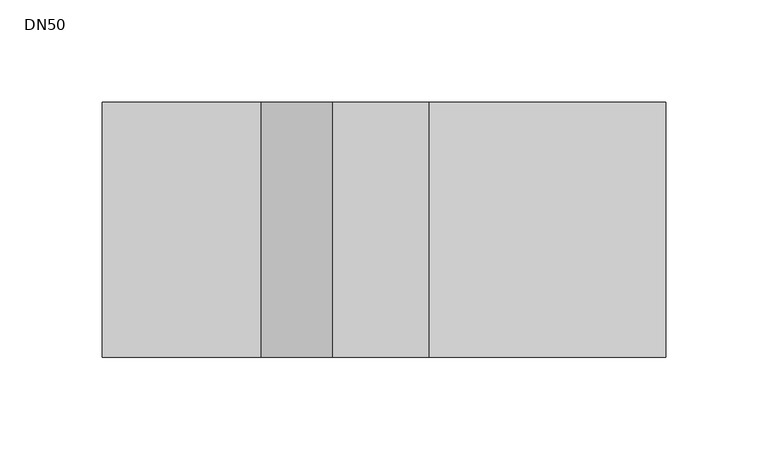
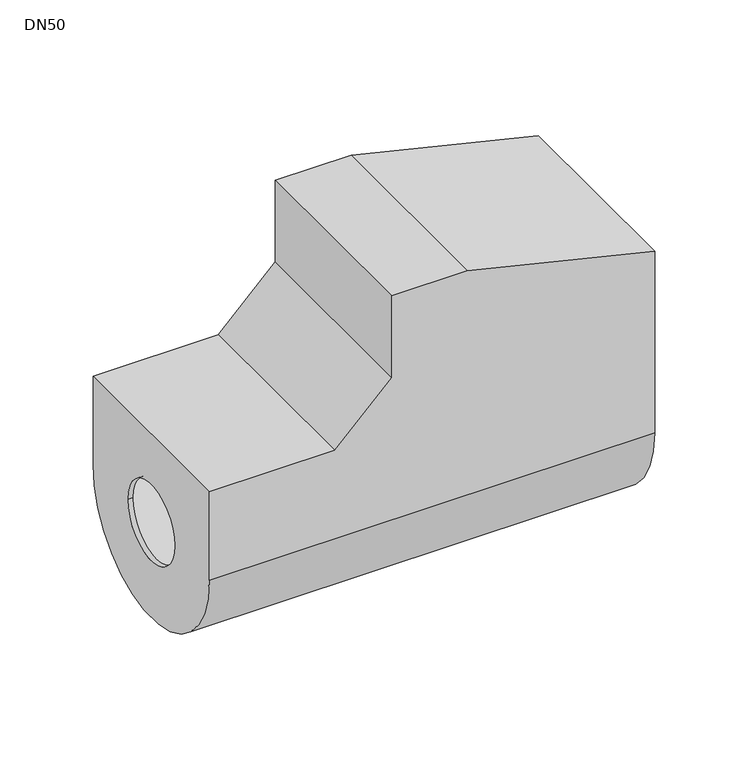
"""IFC4 building model written with IfcOpenShell, lengths in millimetres: valve geometry, 400_5-_KOMF_Isolatieschaal_DN20-50 : DN50."""

from ifc_helpers import new_model, si_unit, frame, origin, place, context, project, spatial, polyline, circle_curve, source, transform, mapped, element, save
from ifc_brep_helpers import plane_surface, cylinder_surface, revolved_surface, advanced_brep


def dn50_a4595473(model_context):
    return source(origin(), model_context, "Body", "AdvancedBrep", [
        advanced_brep(
        [(0.0, 62.5, 147.0), (47.0, 62.5, 147.0), (163.0, 62.5, 118.9711306), (163.0, 62.5, 0.0), (-113.0, 62.5, 0.0), (-113.0, 62.5, 58.0), (-35.3553391, 62.5, 58.0), (0.0, 62.5, 93.3553391), (163.0, -62.5, 118.9711306), (47.0, -62.5, 147.0), (0.0, -62.5, 147.0), (0.0, -62.5, 93.3553391), (-35.3553391, -62.5, 58.0), (-113.0, -62.5, 58.0), (-113.0, -62.5, 0.0), (163.0, -62.5, 0.0), (-113.0, 7.8898669, -62.0), (-113.0, -7.8898669, -62.0), (-113.0, -24.9999998, -4e-07), (-113.0, 25.0000002, -4e-07), (163.0, -7.8898669, -62.0), (163.0, 7.8898669, -62.0), (163.0, 25.0000002, -4e-07), (163.0, -24.9999998, -4e-07), (-110.0, -24.9999998, -4e-07), (-110.0, 25.0000002, -4e-07), (160.0, 25.0000002, -4e-07), (160.0, -24.9999998, -4e-07), (160.0, 59.5, 0.0), (160.0, -59.5, 0.0), (160.0, -59.5, 116.6843036), (160.0, 59.5, 116.6843036), (-110.0, -59.5, 55.0), (-110.0, -59.5, 0.0), (-110.0, 59.5, 0.0), (-110.0, 59.5, 55.0), (-34.1126984, -59.5, 55.0), (3.0, -59.5, 92.1126984), (3.0, -59.5, 144.0), (46.5953113, -59.5, 144.0), (46.5953113, 59.5, 144.0), (3.0, 59.5, 144.0), (3.0, 59.5, 92.1126984), (-34.1126984, 59.5, 55.0)],
        [
            (0, 1),
            (1, 2),
            (2, 3),
            (3, 4),
            (4, 5),
            (5, 6),
            (6, 7),
            (7, 0),
            (8, 9),
            (9, 10),
            (10, 11),
            (11, 12),
            (12, 13),
            (13, 14),
            (14, 15),
            (15, 8),
            (13, 5),
            (4, 16, circle_curve(frame((-113.0, 0.0, 0.0), z_axis=(-1.0, 0.0, 0.0), x_axis=(0.0, 1.0, 0.0)), 62.5)),
            (16, 17),
            (17, 14, circle_curve(frame((-113.0, 0.0, 0.0), z_axis=(-1.0, 0.0, 0.0), x_axis=(0.0, 1.0, 0.0)), 62.5)),
            (18, 19, circle_curve(frame((-113.0, 2e-07, -4e-07), z_axis=(1.0, 0.0, 0.0), x_axis=(0.0, 1.0, 0.0)), 25.0)),
            (19, 18, circle_curve(frame((-113.0, 2e-07, -4e-07), z_axis=(1.0, 0.0, 0.0), x_axis=(0.0, 1.0, 0.0)), 25.0)),
            (12, 6),
            (10, 0),
            (7, 11),
            (9, 1),
            (8, 2),
            (15, 20, circle_curve(frame((163.0, 0.0, 0.0), z_axis=(1.0, 0.0, 0.0), x_axis=(0.0, 1.0, 0.0)), 62.5)),
            (20, 21),
            (21, 3, circle_curve(frame((163.0, 0.0, 0.0), z_axis=(1.0, 0.0, 0.0), x_axis=(0.0, 1.0, 0.0)), 62.5)),
            (22, 23, circle_curve(frame((163.0, 2e-07, -4e-07), z_axis=(-1.0, 0.0, 0.0), x_axis=(0.0, 1.0, 0.0)), 25.0)),
            (23, 22, circle_curve(frame((163.0, 2e-07, -4e-07), z_axis=(-1.0, 0.0, 0.0), x_axis=(0.0, 1.0, 0.0)), 25.0)),
            (16, 21),
            (20, 17),
            (18, 24),
            (24, 25, circle_curve(frame((-110.0, 2e-07, -4e-07), z_axis=(1.0, 0.0, 0.0), x_axis=(0.0, 1.0, 0.0)), 25.0)),
            (25, 19),
            (22, 26),
            (26, 27, circle_curve(frame((160.0, 2e-07, -4e-07), z_axis=(-1.0, 0.0, 0.0), x_axis=(0.0, 1.0, 0.0)), 25.0)),
            (27, 23),
            (25, 24, circle_curve(frame((-110.0, 2e-07, -4e-07), z_axis=(1.0, 0.0, 0.0), x_axis=(0.0, 1.0, 0.0)), 25.0)),
            (27, 26, circle_curve(frame((160.0, 2e-07, -4e-07), z_axis=(-1.0, 0.0, 0.0), x_axis=(0.0, 1.0, 0.0)), 25.0)),
            (28, 29, circle_curve(frame((160.0, 0.0, 0.0), z_axis=(-1.0, 0.0, 0.0), x_axis=(0.0, 1.0, 0.0)), 59.5)),
            (29, 30),
            (30, 31),
            (31, 28),
            (32, 33),
            (33, 34, circle_curve(frame((-110.0, 0.0, 0.0), z_axis=(1.0, 0.0, 0.0), x_axis=(0.0, 1.0, 0.0)), 59.5)),
            (34, 35),
            (35, 32),
            (32, 36),
            (36, 37),
            (37, 38),
            (38, 39),
            (39, 30),
            (29, 33),
            (28, 34),
            (31, 40),
            (40, 41),
            (41, 42),
            (42, 43),
            (43, 35),
            (43, 36),
            (41, 38),
            (37, 42),
            (39, 40),
        ],
        [
            plane_surface(frame((-113.0, 62.5, -62.0), z_axis=(0.0, 1.0, 0.0), x_axis=(0.0, 0.0, 1.0))),
            plane_surface(frame((-113.0, -62.5, -62.0), z_axis=(0.0, -1.0, 0.0), x_axis=(0.0, 0.0, -1.0))),
            plane_surface(frame((-113.0, 62.5, -62.0), z_axis=(-1.0, 0.0, 0.0), x_axis=(0.0, -1.0, 0.0))),
            plane_surface(frame((-113.0, 62.5, 58.0), z_axis=(0.0, 0.0, 1.0), x_axis=(0.0, -1.0, 0.0))),
            plane_surface(frame((0.0, 62.5, 58.0), z_axis=(-1.0, 0.0, 0.0), x_axis=(0.0, -1.0, 0.0))),
            plane_surface(frame((0.0, 62.5, 147.0), z_axis=(0.0, 0.0, 1.0), x_axis=(0.0, -1.0, 0.0))),
            plane_surface(frame((47.0, 62.5, 147.0), z_axis=(0.234869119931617, 0.0, 0.9720270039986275), x_axis=(0.0, -1.0, 0.0))),
            plane_surface(frame((163.0, 62.5, 118.9711306), z_axis=(1.0, 0.0, 0.0), x_axis=(0.0, -1.0, 0.0))),
            plane_surface(frame((163.0, 62.5, -62.0), z_axis=(0.0, 0.0, -1.0), x_axis=(0.0, -1.0, 0.0))),
            revolved_surface(polyline([(-110.0, 25.0000002, -4e-07), (-113.0, 25.0000002, -4e-07)]), (-113.0, 2e-07, -4e-07), (1.0, 0.0, 0.0)),
            revolved_surface(polyline([(163.0, 25.0000002, -4e-07), (160.0, 25.0000002, -4e-07)]), (-113.0, 2e-07, -4e-07), (1.0, 0.0, 0.0)),
            plane_surface(frame((0.0, -62.5, 93.3553391), z_axis=(-0.7071067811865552, 0.0, 0.7071067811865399), x_axis=(0.0, 1.0, 0.0))),
            cylinder_surface(frame((-113.0, 0.0, 0.0), z_axis=(-1.0, 0.0, 0.0), x_axis=(0.0, 1.0, 0.0)), 62.5),
            plane_surface(frame((160.0, -59.5, 55.0), z_axis=(-1.0, 0.0, 0.0), x_axis=(0.0, 0.0, -1.0))),
            plane_surface(frame((-110.0, -59.5, 55.0), z_axis=(1.0, 0.0, 0.0), x_axis=(0.0, 0.0, 1.0))),
            plane_surface(frame((160.0, -59.5, 55.0), z_axis=(0.0, 1.0, 0.0), x_axis=(-1.0, 0.0, 0.0))),
            revolved_surface(polyline([(160.0, 59.5, 0.0), (-110.0, 59.5, 0.0)]), (-110.0, 0.0, 0.0), (1.0, 0.0, 0.0)),
            plane_surface(frame((160.0, 59.5, 0.0), z_axis=(0.0, -1.0, 0.0), x_axis=(-1.0, 0.0, 0.0))),
            plane_surface(frame((160.0, 59.5, 55.0), z_axis=(0.0, 0.0, -1.0), x_axis=(-1.0, 0.0, 0.0))),
            plane_surface(frame((3.0, -59.5, 144.0), z_axis=(1.0, 0.0, 0.0), x_axis=(0.0, 1.0, 0.0))),
            plane_surface(frame((160.0, -59.5, 116.6843036), z_axis=(-0.23417188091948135, 0.0, -0.9721952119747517), x_axis=(0.0, 1.0, 0.0))),
            plane_surface(frame((46.5953113, -59.5, 144.0), z_axis=(0.0, 0.0, -1.0), x_axis=(0.0, 1.0, 0.0))),
            plane_surface(frame((3.0, -59.5, 92.1126984), z_axis=(0.7071067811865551, 0.0, -0.70710678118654), x_axis=(0.0, 1.0, 0.0))),
        ],
        [
            (0, [[1, 2, 3, 4, 5, 6, 7, 8]]),
            (1, [[9, 10, 11, 12, 13, 14, 15, 16]]),
            (2, [[17, -5, 18, 19, 20, -14], [21, 22]]),
            (3, [[-17, -13, 23, -6]]),
            (4, [[24, -8, 25, -11]]),
            (5, [[-1, -24, -10, 26]]),
            (6, [[-2, -26, -9, 27]]),
            (7, [[-27, -16, 28, 29, 30, -3], [31, 32]]),
            (8, [[-19, 33, -29, 34]]),
            (9, [[-21, 35, 36, 37]]),
            (10, [[-31, 38, 39, 40]]),
            (9, [[-22, -37, 41, -35]]),
            (10, [[-32, -40, 42, -38]]),
            (11, [[-12, -25, -7, -23]]),
            (12, [[-4, -30, -33, -18]]),
            (12, [[-15, -20, -34, -28]]),
            (13, [[43, 44, 45, 46], [-39, -42]]),
            (14, [[47, 48, 49, 50], [-36, -41]]),
            (15, [[-47, 51, 52, 53, 54, 55, -44, 56]]),
            (16, [[-43, 57, -48, -56]]),
            (17, [[-49, -57, -46, 58, 59, 60, 61, 62]]),
            (18, [[-50, -62, 63, -51]]),
            (19, [[64, -53, 65, -60]]),
            (20, [[-55, 66, -58, -45]]),
            (21, [[-54, -64, -59, -66]]),
            (22, [[-52, -63, -61, -65]]),
        ],
    ),
    ])


if __name__ == "__main__":
    model = new_model("IFC4")
    model_context = context("Model", 3, world=origin())
    ifc_project = project(units=[si_unit("LENGTHUNIT", "METRE", prefix="MILLI")], contexts=[model_context])
    site = spatial("IfcSite", under=ifc_project)
    building = spatial("IfcBuilding", under=site)
    placement = place(None, origin())
    dn50_shape = dn50_a4595473(model_context)
    element("IfcValve", 1, ObjectType="400_5-_KOMF_Isolatieschaal_DN20-50 : DN50", at=placement, inside=building, context=model_context, shape_type="MappedRepresentation", body=[
        mapped(dn50_shape, transform((0.0, 0.0, 0.0), x_axis=(1.0, 0.0, 0.0), y_axis=(0.0, 1.0, 0.0), z_axis=(0.0, 0.0, 1.0))),
    ])
    save(model, "model.ifc")
